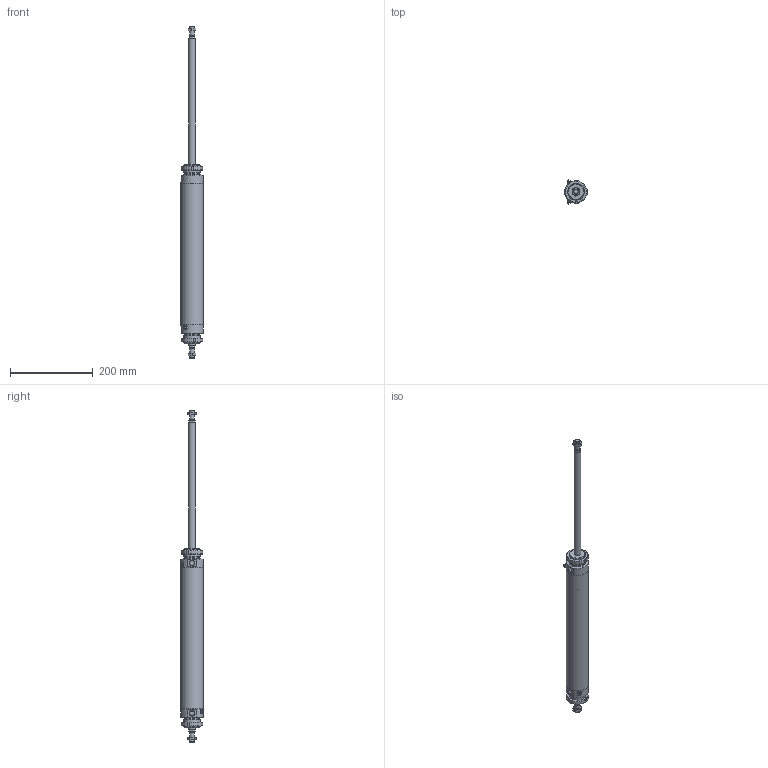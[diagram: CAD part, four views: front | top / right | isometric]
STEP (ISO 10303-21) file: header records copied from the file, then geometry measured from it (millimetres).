
FILE_DESCRIPTION(/* description */ (''),/* implementation_level */ '2;1');
FILE_NAME(/* name */ 'I:\Area Tecnica\Documenti\A-Manieri\_Inventor\12X\12X#S_###_####_#_#\12XDS_050_0300_#_#.stp',/* time_stamp */ '2015-05-13T08:20:44+02:00',/* author */ ('maniean1'),/* organization */ ('Pneumax S.p.A.'),/* preprocessor_version */ 'ST-DEVELOPER v15.2',/* originating_system */ 'Autodesk Inventor 2014',/* authorisation */ '');
FILE_SCHEMA (('AUTOMOTIVE_DESIGN { 1 0 10303 214 3 1 1 }'));
Length unit declared in the file: millimetre
Products named in the file (6): C1250_619-0300; 12X50_606; SP12X50_0300; 12X_50_11; G12X_050_05; 12XDS_050_0300_#_#
Bounding box: 54 x 57.75 x 802 mm (x, y, z)
Volume: 497706.8 mm3; surface area: 197536.6 mm2
Topology: 8 solids, 8 shells, 151 faces, 345 edges, 222 vertices
Faces by surface type: plane 78, cylinder 37, cone 34, torus 2
Full cylindrical faces by diameter (mm): 5 x2, 10.2 x2, 11 x2, 11.4 x2, 12 x4, 14 x2, 15.6 x2, 16 x2, 38.2 x2, 40 x6, 50 x2, 54 x3
Entity records: 2556 total; most frequent: CARTESIAN_POINT 505, DIRECTION 428, ORIENTED_EDGE 342, AXIS2_PLACEMENT_3D 182, EDGE_CURVE 171, EDGE_LOOP 144, VERTEX_POINT 129, ADVANCED_FACE 94
